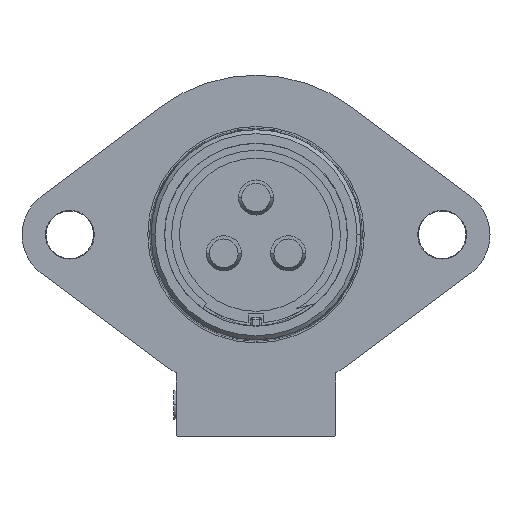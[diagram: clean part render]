
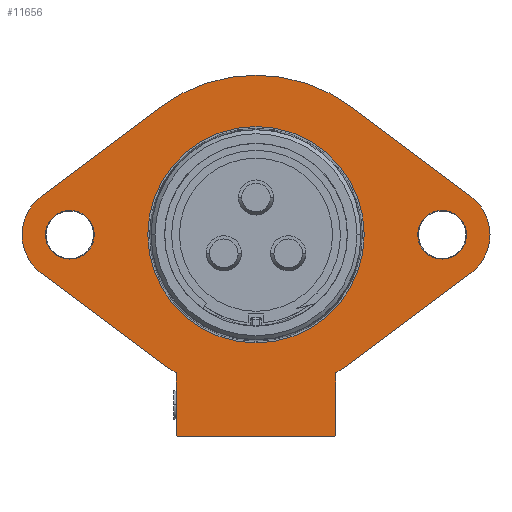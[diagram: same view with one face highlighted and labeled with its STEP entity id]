
A CAD part, front view. The second image highlights one B-rep face of the part: STEP entity #11656.
In plain terms, the highlighted planar face has unit normal (0, -1, 0).
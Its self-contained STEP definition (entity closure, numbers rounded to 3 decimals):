
#11012=DIRECTION('',(0.,0.,-1.));
#11013=VECTOR('',#11012,5.71);
#11014=CARTESIAN_POINT('',(-7.5,-2.05,-12.99));
#11015=LINE('',#11014,#11013);
#11149=DIRECTION('',(0.,0.,1.));
#11150=VECTOR('',#11149,5.71);
#11151=CARTESIAN_POINT('',(7.5,-2.05,-18.7));
#11152=LINE('',#11151,#11150);
#11161=DIRECTION('',(1.,0.,0.));
#11162=VECTOR('',#11161,14.4);
#11163=CARTESIAN_POINT('',(-7.2,-2.05,-19.));
#11164=LINE('',#11163,#11162);
#11173=CARTESIAN_POINT('',(0.,-2.05,0.));
#11174=DIRECTION('',(0.,1.,0.));
#11175=DIRECTION('',(-0.6,0.,0.8));
#11176=AXIS2_PLACEMENT_3D('',#11173,#11174,#11175);
#11178=DIRECTION('',(0.8,0.,-0.6));
#11179=VECTOR('',#11178,14.);
#11180=CARTESIAN_POINT('',(9.,-2.05,12.));
#11181=LINE('',#11180,#11179);
#11182=CARTESIAN_POINT('',(17.5,-2.05,0.));
#11183=DIRECTION('',(0.,1.,0.));
#11184=DIRECTION('',(0.6,0.,0.8));
#11185=AXIS2_PLACEMENT_3D('',#11182,#11183,#11184);
#11187=CARTESIAN_POINT('',(17.5,-2.05,0.));
#11188=DIRECTION('',(0.,1.,0.));
#11189=DIRECTION('',(1.,0.,0.));
#11190=AXIS2_PLACEMENT_3D('',#11187,#11188,#11189);
#11192=DIRECTION('',(-0.8,0.,-0.6));
#11193=VECTOR('',#11192,14.);
#11194=CARTESIAN_POINT('',(20.2,-2.05,-3.6));
#11195=LINE('',#11194,#11193);
#11196=CARTESIAN_POINT('',(0.,-2.05,0.));
#11197=DIRECTION('',(0.,1.,0.));
#11198=DIRECTION('',(0.6,0.,-0.8));
#11199=AXIS2_PLACEMENT_3D('',#11196,#11197,#11198);
#11201=CARTESIAN_POINT('',(7.5,-2.05,-18.7));
#11202=CARTESIAN_POINT('',(7.5,-2.05,-18.8));
#11203=CARTESIAN_POINT('',(7.424,-2.05,-18.924));
#11204=CARTESIAN_POINT('',(7.3,-2.05,-19.));
#11205=CARTESIAN_POINT('',(7.2,-2.05,-19.));
#11207=CARTESIAN_POINT('',(-7.2,-2.05,-19.));
#11208=CARTESIAN_POINT('',(-7.3,-2.05,-19.));
#11209=CARTESIAN_POINT('',(-7.424,-2.05,-18.924));
#11210=CARTESIAN_POINT('',(-7.5,-2.05,-18.8));
#11211=CARTESIAN_POINT('',(-7.5,-2.05,-18.7));
#11213=CARTESIAN_POINT('',(0.,-2.05,0.));
#11214=DIRECTION('',(0.,1.,0.));
#11215=DIRECTION('',(-0.5,0.,-0.866));
#11216=AXIS2_PLACEMENT_3D('',#11213,#11214,#11215);
#11218=DIRECTION('',(-0.8,0.,0.6));
#11219=VECTOR('',#11218,14.);
#11220=CARTESIAN_POINT('',(-9.,-2.05,-12.));
#11221=LINE('',#11220,#11219);
#11222=CARTESIAN_POINT('',(-17.5,-2.05,0.));
#11223=DIRECTION('',(0.,1.,0.));
#11224=DIRECTION('',(-0.6,0.,-0.8));
#11225=AXIS2_PLACEMENT_3D('',#11222,#11223,#11224);
#11227=CARTESIAN_POINT('',(-17.5,-2.05,0.));
#11228=DIRECTION('',(0.,1.,0.));
#11229=DIRECTION('',(-1.,0.,0.));
#11230=AXIS2_PLACEMENT_3D('',#11227,#11228,#11229);
#11232=DIRECTION('',(0.8,0.,0.6));
#11233=VECTOR('',#11232,14.);
#11234=CARTESIAN_POINT('',(-20.2,-2.05,3.6));
#11235=LINE('',#11234,#11233);
#11236=CARTESIAN_POINT('',(0.,-2.05,0.));
#11237=DIRECTION('',(0.,-1.,0.));
#11238=DIRECTION('',(-1.,0.,0.));
#11239=AXIS2_PLACEMENT_3D('',#11236,#11237,#11238);
#11241=CARTESIAN_POINT('',(0.,-2.05,0.));
#11242=DIRECTION('',(0.,-1.,0.));
#11243=DIRECTION('',(1.,0.,0.));
#11244=AXIS2_PLACEMENT_3D('',#11241,#11242,#11243);
#11246=CARTESIAN_POINT('',(-17.5,-2.05,0.));
#11247=DIRECTION('',(0.,-1.,0.));
#11248=DIRECTION('',(1.,0.,0.));
#11249=AXIS2_PLACEMENT_3D('',#11246,#11247,#11248);
#11251=CARTESIAN_POINT('',(-17.5,-2.05,0.));
#11252=DIRECTION('',(0.,-1.,0.));
#11253=DIRECTION('',(-1.,0.,0.));
#11254=AXIS2_PLACEMENT_3D('',#11251,#11252,#11253);
#11256=CARTESIAN_POINT('',(17.5,-2.05,0.));
#11257=DIRECTION('',(0.,-1.,0.));
#11258=DIRECTION('',(1.,0.,0.));
#11259=AXIS2_PLACEMENT_3D('',#11256,#11257,#11258);
#11261=CARTESIAN_POINT('',(17.5,-2.05,0.));
#11262=DIRECTION('',(0.,-1.,0.));
#11263=DIRECTION('',(-1.,0.,0.));
#11264=AXIS2_PLACEMENT_3D('',#11261,#11262,#11263);
#11308=CARTESIAN_POINT('',(7.2,-2.05,-19.));
#11309=VERTEX_POINT('',#11308);
#11310=VERTEX_POINT('',#11201);
#11350=CARTESIAN_POINT('',(9.,-2.05,12.));
#11351=VERTEX_POINT('',#11350);
#11352=CARTESIAN_POINT('',(-9.,-2.05,12.));
#11353=VERTEX_POINT('',#11352);
#11354=CARTESIAN_POINT('',(20.2,-2.05,3.6));
#11355=VERTEX_POINT('',#11354);
#11356=CARTESIAN_POINT('',(22.,-2.05,0.));
#11357=VERTEX_POINT('',#11356);
#11358=CARTESIAN_POINT('',(20.2,-2.05,-3.6));
#11359=VERTEX_POINT('',#11358);
#11360=CARTESIAN_POINT('',(9.,-2.05,-12.));
#11361=VERTEX_POINT('',#11360);
#11362=CARTESIAN_POINT('',(7.5,-2.05,-12.99));
#11363=VERTEX_POINT('',#11362);
#11364=CARTESIAN_POINT('',(-7.2,-2.05,-19.));
#11365=VERTEX_POINT('',#11364);
#11366=VERTEX_POINT('',#11211);
#11367=CARTESIAN_POINT('',(-7.5,-2.05,-12.99));
#11368=VERTEX_POINT('',#11367);
#11369=CARTESIAN_POINT('',(-9.,-2.05,-12.));
#11370=VERTEX_POINT('',#11369);
#11371=CARTESIAN_POINT('',(-20.2,-2.05,-3.6));
#11372=VERTEX_POINT('',#11371);
#11373=CARTESIAN_POINT('',(-22.,-2.05,0.));
#11374=VERTEX_POINT('',#11373);
#11375=CARTESIAN_POINT('',(-20.2,-2.05,3.6));
#11376=VERTEX_POINT('',#11375);
#11377=CARTESIAN_POINT('',(-10.173,-2.05,0.));
#11378=CARTESIAN_POINT('',(10.173,-2.05,0.));
#11379=VERTEX_POINT('',#11377);
#11380=VERTEX_POINT('',#11378);
#11381=CARTESIAN_POINT('',(-15.21,-2.05,0.));
#11382=CARTESIAN_POINT('',(-19.79,-2.05,0.));
#11383=VERTEX_POINT('',#11381);
#11384=VERTEX_POINT('',#11382);
#11385=CARTESIAN_POINT('',(19.79,-2.05,0.));
#11386=CARTESIAN_POINT('',(15.21,-2.05,0.));
#11387=VERTEX_POINT('',#11385);
#11388=VERTEX_POINT('',#11386);
#11610=CARTESIAN_POINT('',(0.,-2.05,0.));
#11611=DIRECTION('',(0.,-1.,0.));
#11612=DIRECTION('',(1.,0.,0.));
#11613=AXIS2_PLACEMENT_3D('',#11610,#11611,#11612);
#11614=PLANE('',#11613);
#11615=ORIENTED_EDGE('',*,*,#11470,.T.);
#11616=ORIENTED_EDGE('',*,*,#11485,.T.);
#11617=ORIENTED_EDGE('',*,*,#11499,.T.);
#11618=ORIENTED_EDGE('',*,*,#11513,.T.);
#11619=ORIENTED_EDGE('',*,*,#11527,.T.);
#11620=ORIENTED_EDGE('',*,*,#11541,.T.);
#11621=ORIENTED_EDGE('',*,*,#11555,.F.);
#11622=ORIENTED_EDGE('',*,*,#11573,.T.);
#11623=ORIENTED_EDGE('',*,*,#11587,.F.);
#11624=ORIENTED_EDGE('',*,*,#11604,.T.);
#11625=ORIENTED_EDGE('',*,*,#11398,.F.);
#11627=ORIENTED_EDGE('',*,*,#11626,.T.);
#11629=ORIENTED_EDGE('',*,*,#11628,.T.);
#11631=ORIENTED_EDGE('',*,*,#11630,.T.);
#11633=ORIENTED_EDGE('',*,*,#11632,.T.);
#11635=ORIENTED_EDGE('',*,*,#11634,.T.);
#11636=EDGE_LOOP('',(#11615,#11616,#11617,#11618,#11619,#11620,#11621,#11622,
#11623,#11624,#11625,#11627,#11629,#11631,#11633,#11635));
#11637=FACE_OUTER_BOUND('',#11636,.F.);
#11639=ORIENTED_EDGE('',*,*,#11638,.T.);
#11641=ORIENTED_EDGE('',*,*,#11640,.T.);
#11642=EDGE_LOOP('',(#11639,#11641));
#11643=FACE_BOUND('',#11642,.F.);
#11645=ORIENTED_EDGE('',*,*,#11644,.T.);
#11647=ORIENTED_EDGE('',*,*,#11646,.T.);
#11648=EDGE_LOOP('',(#11645,#11647));
#11649=FACE_BOUND('',#11648,.F.);
#11651=ORIENTED_EDGE('',*,*,#11650,.T.);
#11653=ORIENTED_EDGE('',*,*,#11652,.T.);
#11654=EDGE_LOOP('',(#11651,#11653));
#11655=FACE_BOUND('',#11654,.F.);
#11177=CIRCLE('',#11176,15.);
#11186=CIRCLE('',#11185,4.5);
#11191=CIRCLE('',#11190,4.5);
#11200=CIRCLE('',#11199,15.);
#11206=B_SPLINE_CURVE_WITH_KNOTS('',3,(#11201,#11202,#11203,#11204,#11205),
.UNSPECIFIED.,.F.,.F.,(4,1,4),(0.,0.5,1.),.UNSPECIFIED.);
#11212=B_SPLINE_CURVE_WITH_KNOTS('',3,(#11207,#11208,#11209,#11210,#11211),
.UNSPECIFIED.,.F.,.F.,(4,1,4),(0.,0.5,1.),.UNSPECIFIED.);
#11217=CIRCLE('',#11216,15.);
#11226=CIRCLE('',#11225,4.5);
#11231=CIRCLE('',#11230,4.5);
#11240=CIRCLE('',#11239,10.173);
#11245=CIRCLE('',#11244,10.173);
#11250=CIRCLE('',#11249,2.29);
#11255=CIRCLE('',#11254,2.29);
#11260=CIRCLE('',#11259,2.29);
#11265=CIRCLE('',#11264,2.29);
#11398=EDGE_CURVE('',#11368,#11366,#11015,.T.);
#11470=EDGE_CURVE('',#11353,#11351,#11177,.T.);
#11485=EDGE_CURVE('',#11351,#11355,#11181,.T.);
#11499=EDGE_CURVE('',#11355,#11357,#11186,.T.);
#11513=EDGE_CURVE('',#11357,#11359,#11191,.T.);
#11527=EDGE_CURVE('',#11359,#11361,#11195,.T.);
#11541=EDGE_CURVE('',#11361,#11363,#11200,.T.);
#11555=EDGE_CURVE('',#11310,#11363,#11152,.T.);
#11573=EDGE_CURVE('',#11310,#11309,#11206,.T.);
#11587=EDGE_CURVE('',#11365,#11309,#11164,.T.);
#11604=EDGE_CURVE('',#11365,#11366,#11212,.T.);
#11626=EDGE_CURVE('',#11368,#11370,#11217,.T.);
#11628=EDGE_CURVE('',#11370,#11372,#11221,.T.);
#11630=EDGE_CURVE('',#11372,#11374,#11226,.T.);
#11632=EDGE_CURVE('',#11374,#11376,#11231,.T.);
#11634=EDGE_CURVE('',#11376,#11353,#11235,.T.);
#11638=EDGE_CURVE('',#11379,#11380,#11240,.T.);
#11640=EDGE_CURVE('',#11380,#11379,#11245,.T.);
#11644=EDGE_CURVE('',#11383,#11384,#11250,.T.);
#11646=EDGE_CURVE('',#11384,#11383,#11255,.T.);
#11650=EDGE_CURVE('',#11387,#11388,#11260,.T.);
#11652=EDGE_CURVE('',#11388,#11387,#11265,.T.);
#11656=ADVANCED_FACE('',(#11637,#11643,#11649,#11655),#11614,.T.);
